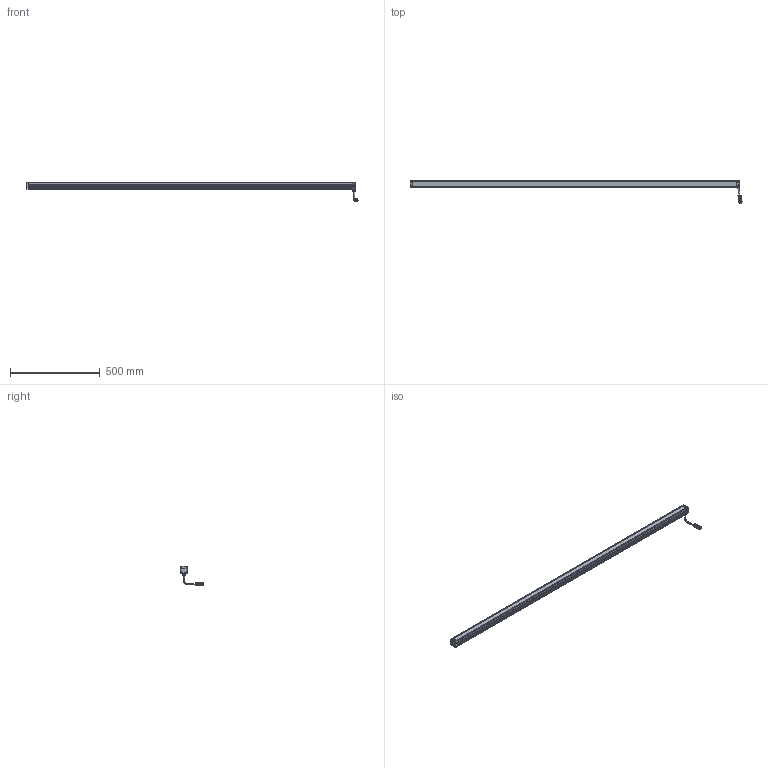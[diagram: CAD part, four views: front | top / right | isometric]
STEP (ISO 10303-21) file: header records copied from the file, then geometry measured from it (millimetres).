
FILE_DESCRIPTION(/* description */ (''),/* implementation_level */ '2;1');
FILE_NAME(/* name */ 'LBHP1800',/* time_stamp */ '2025-01-14T08:11:04+01:00',/* author */ (''),/* organization */ ('iiM AG'),/* preprocessor_version */ 'ST-DEVELOPER v16.7',/* originating_system */ 'DEX',/* authorisation */ $);
FILE_SCHEMA (('AUTOMOTIVE_DESIGN {1 0 10303 214 3 1 1}'));
Length unit declared in the file: millimetre
Products named in the file (1): step export
Bounding box: 1844.79 x 126.2 x 109.58 mm (x, y, z)
Volume: 2330333.4 mm3; surface area: 515896.6 mm2
Topology: 2 solids, 2 shells, 882 faces, 2334 edges, 1476 vertices
Faces by surface type: cylinder 368, plane 336, cone 138, sphere 21, torus 16, bspline 3
Full cylindrical faces by diameter (mm): 1.001 x12, 2.693 x4, 3 x2, 3.1 x4, 3.242 x6, 3.8 x8, 5.6 x8, 6 x8, 6.8 x2, 8.008 x1, 10 x1, 11 x1, 12.9 x2, 14 x1, 15.015 x1, 16.016 x1, 17.518 x1, 18.519 x3, 18.619 x2
Entity records: 32582 total; most frequent: CARTESIAN_POINT 6224, ORIENTED_EDGE 4118, DIRECTION 4048, EDGE_CURVE 2059, AXIS2_PLACEMENT_3D 1523, VERTEX_POINT 1383, FACE_BOUND 1100, EDGE_LOOP 1086
